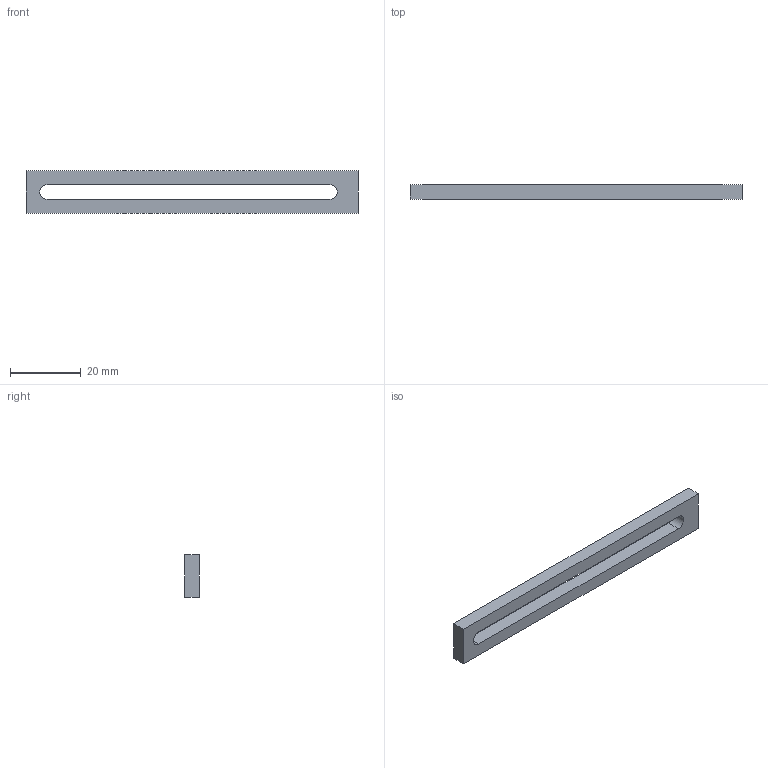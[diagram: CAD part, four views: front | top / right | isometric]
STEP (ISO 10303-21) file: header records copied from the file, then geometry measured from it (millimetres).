
FILE_DESCRIPTION(('Open CASCADE Model'),'2;1');
FILE_NAME('Open CASCADE Shape Model','2026-11-08T07:33:07',('Author'),( 'Open CASCADE'),'Open CASCADE STEP processor 7.8','Open CASCADE 7.8' ,'Unknown');
FILE_SCHEMA(('AUTOMOTIVE_DESIGN { 1 0 10303 214 1 1 1 1 }'));
Length unit declared in the file: millimetre
Products named in the file (1): Open CASCADE STEP translator 7.8 3
Bounding box: 94 x 4 x 12 mm (x, y, z)
Volume: 3112.6 mm3; surface area: 3097.1 mm2
Topology: 1 solids, 1 shells, 10 faces, 24 edges, 16 vertices
Faces by surface type: plane 8, cylinder 2
Entity records: 608 total; most frequent: CARTESIAN_POINT 109, DIRECTION 88, LINE 54, VECTOR 54, ORIENTED_EDGE 48, PCURVE 48, DEFINITIONAL_REPRESENTATION 48, EDGE_CURVE 24
